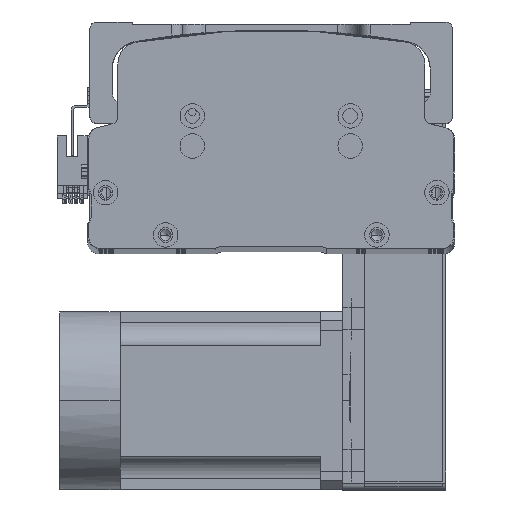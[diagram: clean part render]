
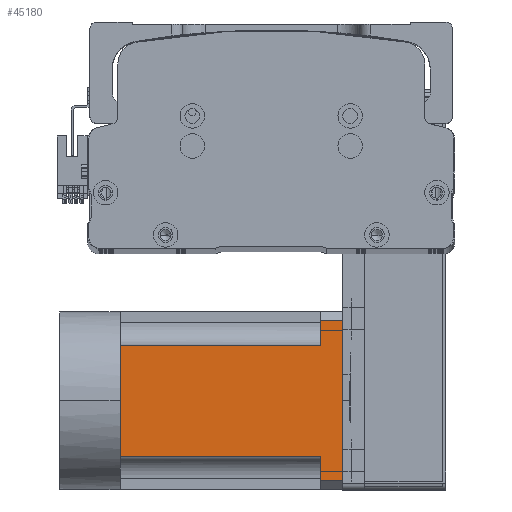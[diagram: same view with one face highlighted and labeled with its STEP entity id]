
A CAD part, top view. The second image highlights one B-rep face of the part: STEP entity #45180.
In plain terms, the highlighted planar face has unit normal (0, 0, 1) as drawn and (0, 0, -1) by its records, which use the part's own axes.
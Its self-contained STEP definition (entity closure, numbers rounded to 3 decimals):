
#226 = VECTOR ( 'NONE', #7299, 1000. ) ;
#680 = EDGE_CURVE ( 'NONE', #54015, #9963, #8489, .T. ) ;
#1059 = ORIENTED_EDGE ( 'NONE', *, *, #43874, .T. ) ;
#1785 = CARTESIAN_POINT ( 'NONE',  ( -25., 0., -40. ) ) ;
#2931 = CARTESIAN_POINT ( 'NONE',  ( -40., 0., -40. ) ) ;
#3038 = VERTEX_POINT ( 'NONE', #29939 ) ;
#3840 = LINE ( 'NONE', #30214, #17788 ) ;
#5390 = CARTESIAN_POINT ( 'NONE',  ( 25., 90., -40. ) ) ;
#6540 = CARTESIAN_POINT ( 'NONE',  ( 0., 0., -40. ) ) ;
#7211 = EDGE_CURVE ( 'NONE', #46582, #57005, #8610, .T. ) ;
#7299 = DIRECTION ( 'NONE',  ( 0., 1., 0. ) ) ;
#8075 = EDGE_CURVE ( 'NONE', #36947, #3038, #13481, .T. ) ;
#8489 = LINE ( 'NONE', #12299, #48606 ) ;
#8610 = LINE ( 'NONE', #33029, #62686 ) ;
#9963 = VERTEX_POINT ( 'NONE', #56039 ) ;
#10447 = ORIENTED_EDGE ( 'NONE', *, *, #18014, .T. ) ;
#11407 = EDGE_LOOP ( 'NONE', ( #23291, #15297, #1059, #56464, #39263, #47106, #10447, #23682, #15208 ) ) ;
#11443 = EDGE_CURVE ( 'NONE', #46582, #21216, #3840, .T. ) ;
#12198 = DIRECTION ( 'NONE',  ( 0., -1., 0. ) ) ;
#12299 = CARTESIAN_POINT ( 'NONE',  ( -40., 90., -40. ) ) ;
#13416 = DIRECTION ( 'NONE',  ( -1., 0., 0. ) ) ;
#13481 = LINE ( 'NONE', #40261, #65734 ) ;
#15103 = DIRECTION ( 'NONE',  ( -1., 0., 0. ) ) ;
#15208 = ORIENTED_EDGE ( 'NONE', *, *, #39852, .T. ) ;
#15267 = LINE ( 'NONE', #30590, #29167 ) ;
#15297 = ORIENTED_EDGE ( 'NONE', *, *, #7211, .T. ) ;
#15698 = LINE ( 'NONE', #2931, #27945 ) ;
#15782 = LINE ( 'NONE', #28114, #226 ) ;
#17788 = VECTOR ( 'NONE', #61564, 1000. ) ;
#18014 = EDGE_CURVE ( 'NONE', #24035, #54015, #15782, .T. ) ;
#19742 = PLANE ( 'NONE',  #55202 ) ;
#21216 = VERTEX_POINT ( 'NONE', #36193 ) ;
#21598 = CARTESIAN_POINT ( 'NONE',  ( 36., 90., -40. ) ) ;
#23291 = ORIENTED_EDGE ( 'NONE', *, *, #11443, .F. ) ;
#23682 = ORIENTED_EDGE ( 'NONE', *, *, #680, .T. ) ;
#24035 = VERTEX_POINT ( 'NONE', #1785 ) ;
#24379 = VERTEX_POINT ( 'NONE', #6540 ) ;
#25410 = CARTESIAN_POINT ( 'NONE',  ( -40., 90., -40. ) ) ;
#25415 = DIRECTION ( 'NONE',  ( 0., 1., 0. ) ) ;
#26437 = EDGE_CURVE ( 'NONE', #24379, #24035, #15267, .T. ) ;
#27945 = VECTOR ( 'NONE', #13416, 1000. ) ;
#28114 = CARTESIAN_POINT ( 'NONE',  ( -25., -27., -40. ) ) ;
#29167 = VECTOR ( 'NONE', #36074, 1000. ) ;
#29939 = CARTESIAN_POINT ( 'NONE',  ( 25., 0., -40. ) ) ;
#30214 = CARTESIAN_POINT ( 'NONE',  ( -40., 100., -40. ) ) ;
#30497 = DIRECTION ( 'NONE',  ( 0., 0., -1. ) ) ;
#30590 = CARTESIAN_POINT ( 'NONE',  ( -40., 0., -40. ) ) ;
#32692 = CARTESIAN_POINT ( 'NONE',  ( 36., 100., -40. ) ) ;
#33029 = CARTESIAN_POINT ( 'NONE',  ( 36., -27., -40. ) ) ;
#33401 = CARTESIAN_POINT ( 'NONE',  ( -25., 90., -40. ) ) ;
#34403 = VECTOR ( 'NONE', #25415, 1000. ) ;
#36056 = LINE ( 'NONE', #51480, #34403 ) ;
#36074 = DIRECTION ( 'NONE',  ( -1., 0., 0. ) ) ;
#36193 = CARTESIAN_POINT ( 'NONE',  ( -36., 100., -40. ) ) ;
#36947 = VERTEX_POINT ( 'NONE', #5390 ) ;
#39263 = ORIENTED_EDGE ( 'NONE', *, *, #51694, .T. ) ;
#39852 = EDGE_CURVE ( 'NONE', #9963, #21216, #36056, .T. ) ;
#40261 = CARTESIAN_POINT ( 'NONE',  ( 25., -27., -40. ) ) ;
#41166 = FACE_OUTER_BOUND ( 'NONE', #11407, .T. ) ;
#43874 = EDGE_CURVE ( 'NONE', #57005, #36947, #61867, .T. ) ;
#45180 = ADVANCED_FACE ( 'NONE', ( #41166 ), #19742, .T. ) ;
#45829 = CARTESIAN_POINT ( 'NONE',  ( -40., -27., -40. ) ) ;
#46582 = VERTEX_POINT ( 'NONE', #32692 ) ;
#47106 = ORIENTED_EDGE ( 'NONE', *, *, #26437, .T. ) ;
#47928 = VECTOR ( 'NONE', #15103, 1000. ) ;
#48606 = VECTOR ( 'NONE', #64727, 1000. ) ;
#51480 = CARTESIAN_POINT ( 'NONE',  ( -36., -27., -40. ) ) ;
#51694 = EDGE_CURVE ( 'NONE', #3038, #24379, #15698, .T. ) ;
#54015 = VERTEX_POINT ( 'NONE', #33401 ) ;
#55202 = AXIS2_PLACEMENT_3D ( 'NONE', #45829, #30497, #67103 ) ;
#56039 = CARTESIAN_POINT ( 'NONE',  ( -36., 90., -40. ) ) ;
#56464 = ORIENTED_EDGE ( 'NONE', *, *, #8075, .T. ) ;
#57005 = VERTEX_POINT ( 'NONE', #21598 ) ;
#61329 = DIRECTION ( 'NONE',  ( 0., -1., 0. ) ) ;
#61564 = DIRECTION ( 'NONE',  ( -1., 0., 0. ) ) ;
#61867 = LINE ( 'NONE', #25410, #47928 ) ;
#62686 = VECTOR ( 'NONE', #12198, 1000. ) ;
#64727 = DIRECTION ( 'NONE',  ( -1., 0., 0. ) ) ;
#65734 = VECTOR ( 'NONE', #61329, 1000. ) ;
#67103 = DIRECTION ( 'NONE',  ( -1., 0., 0. ) ) ;
